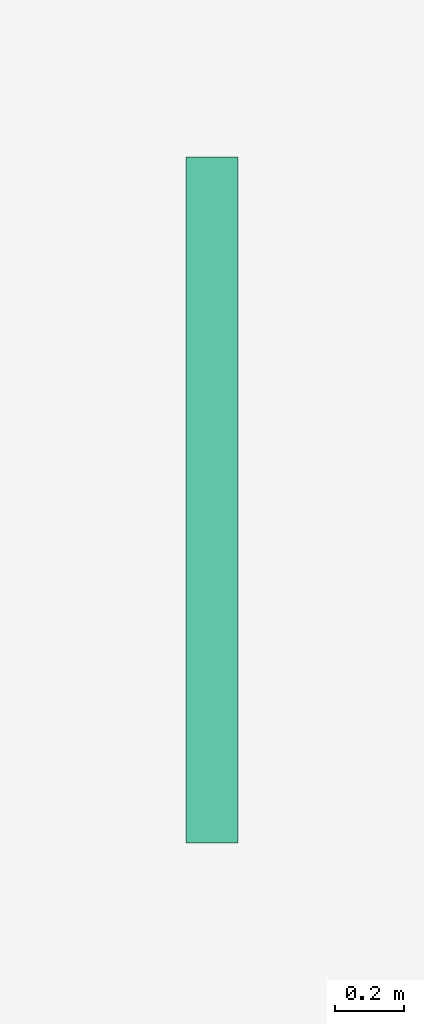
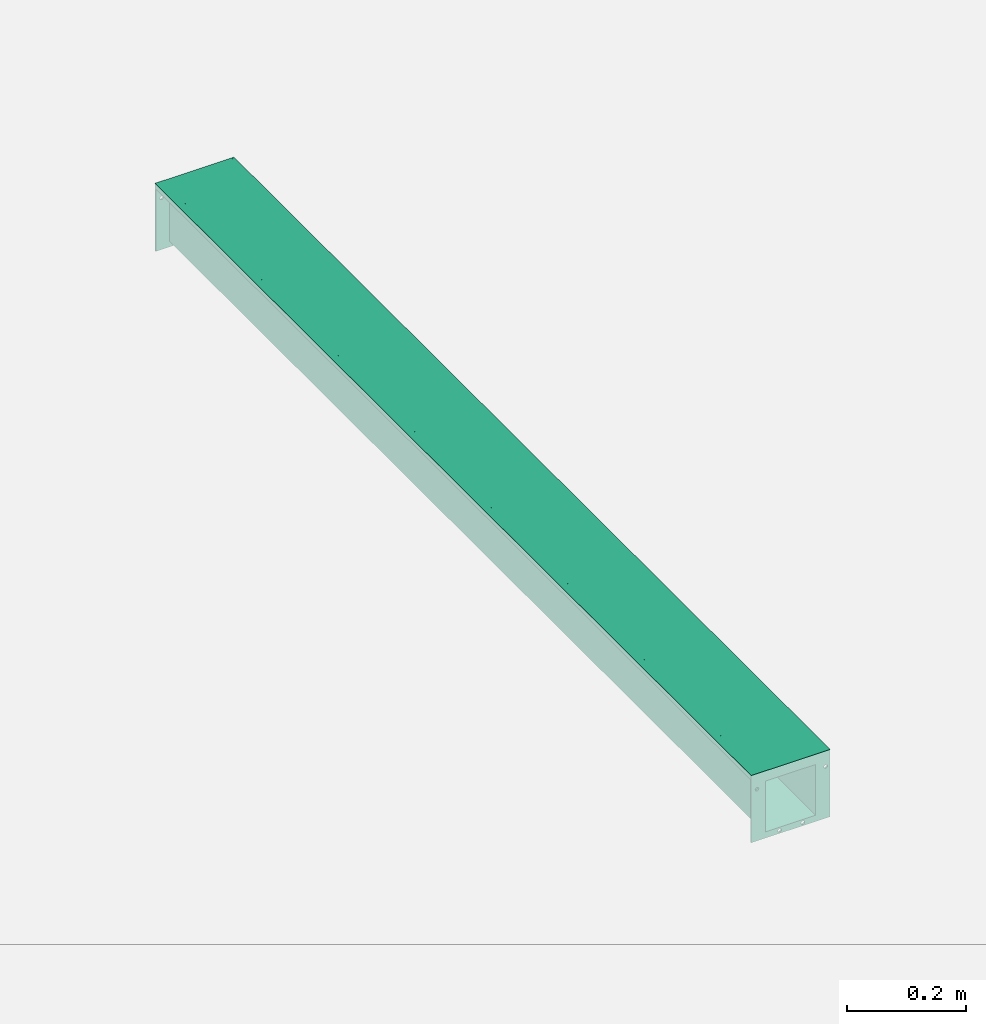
# One storey, part 2 of 2: 1 flow terminal.
"""IFC2X3 building model written with IfcOpenShell, lengths in millimetres."""

from ifc_helpers import new_model, entity, si_unit, converted_unit, direction, frame, frame_2d, origin, origin_2d_with_axis, place, context, subcontext, project, spatial, polyline, circle_curve, parameter, trimmed, segment, composite_curve, rectangle, outline, extrude, source, transform, mapped, material, material_list, element, save


model = new_model("IFC2X3")

# Units and contexts
model_context = context("Model", 3, precision=1e-06, world=origin(), true_north=direction((2.0, 6.12303176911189e-17, 1.0)))
context_of_model = context(None, 3, precision=1e-06, world=origin(), true_north=direction((2.0, 6.12303176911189e-17, 1.0)))
body_context = subcontext(model_context, "Body", "Model", "MODEL_VIEW")
ifc_project = project(units=[si_unit("LENGTHUNIT", "METRE", prefix="MILLI"), si_unit("AREAUNIT", "SQUARE_METRE", prefix="MILLI"), si_unit("VOLUMEUNIT", "CUBIC_METRE", prefix="MILLI"), converted_unit("PLANEANGLEUNIT", "DEGREE", entity("IfcRatioMeasure", 0.0174532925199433), si_unit("PLANEANGLEUNIT", "RADIAN"), dimensions=[0, 0, 0, 0, 0, 0, 0]), si_unit("TIMEUNIT", "SECOND")], contexts=[model_context, context_of_model])

# Site, building, storey
site_placement = place(None, origin())
site = spatial("IfcSite", under=ifc_project, at=site_placement, Name="Default", CompositionType="ELEMENT")
building_placement = place(site_placement, origin())
building = spatial("IfcBuilding", under=site, at=building_placement, CompositionType="ELEMENT")
storey_placement = place(building_placement, origin())
storey = spatial("IfcBuildingStorey", under=building, at=storey_placement, Name="Level 1", CompositionType="ELEMENT", Elevation=0.0)

# Flow terminal
ifc_material_1 = material(Name="Stainless Steel AISI 304")
ifc_material_2 = material(Name="Polystyrene, High Impact (F)")
ifc_material_list = material_list([ifc_material_1, ifc_material_2])
shared_shape = source(origin(), body_context, "Body", "SweptSolid", [
    extrude(rectangle(XDim=2000.0, YDim=124.999917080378, at=origin_2d_with_axis()), frame((4.14598109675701e-05, 1000.0, -21.0), z_axis=(0.0, 0.0, 1.0), x_axis=(0.0, 1.0, 0.0)), (0.0, 0.0, 1.0), 20.9999999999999),
    extrude(outline(polyline([(-76.5000276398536, -50.8000000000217), (-62.4999447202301, -50.8000000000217), (-62.4999447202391, -29.8000000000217), (-48.499944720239, -29.8000000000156), (-48.4999447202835, 74.1999999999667), (48.4999723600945, 74.2000000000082), (48.499972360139, -29.7999999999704), (62.4999723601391, -29.7999999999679), (62.4999723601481, -50.7999999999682), (76.4999723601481, -50.7999999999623), (76.4999723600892, 87.0), (-76.5000276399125, 87.0), (-76.5000276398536, -50.8000000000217)]), holes=[composite_curve([segment(trimmed(circle_curve(frame_2d((67.7349848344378, -18.9014274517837), x_axis=(1.0, 0.0)), 3.5), [parameter(0.0)], [parameter(180.0)], True, "PARAMETER"), False, "CONTINUOUS"), segment(trimmed(circle_curve(frame_2d((67.7349848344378, -18.9014274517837), x_axis=(1.0, 0.0)), 3.5), [parameter(180.0)], [parameter(360.0)], True, "PARAMETER"), False, "CONTINUOUS")], self_intersect=False), composite_curve([segment(trimmed(circle_curve(frame_2d((23.7349848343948, 80.9218749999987), x_axis=(1.0, 0.0)), 3.5), [parameter(0.0)], [parameter(180.0)], True, "PARAMETER"), False, "CONTINUOUS"), segment(trimmed(circle_curve(frame_2d((23.7349848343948, 80.9218749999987), x_axis=(1.0, 0.0)), 3.5), [parameter(180.0)], [parameter(360.0)], True, "PARAMETER"), False, "CONTINUOUS")], self_intersect=False), composite_curve([segment(trimmed(circle_curve(frame_2d((-21.2650151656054, 80.9218749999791), x_axis=(1.0, 0.0)), 3.5), [parameter(180.0)], [parameter(360.0)], True, "PARAMETER"), False, "CONTINUOUS"), segment(trimmed(circle_curve(frame_2d((-21.2650151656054, 80.9218749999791), x_axis=(1.0, 0.0)), 3.5), [parameter(360.0)], [parameter(180.0)], True, "PARAMETER"), False, "CONTINUOUS")], self_intersect=False), composite_curve([segment(trimmed(circle_curve(frame_2d((-65.2650151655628, -18.9014274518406), x_axis=(1.0, 0.0)), 3.5), [parameter(179.999999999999)], [parameter(360.0)], True, "PARAMETER"), False, "CONTINUOUS"), segment(trimmed(circle_curve(frame_2d((-65.2650151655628, -18.9014274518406), x_axis=(1.0, 0.0)), 3.5), [parameter(0.0)], [parameter(180.0)], True, "PARAMETER"), False, "CONTINUOUS")], self_intersect=False)]), frame((2.7639875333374e-05, 1997.0, -50.8000000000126), z_axis=(0.0, 1.0, 0.0), x_axis=(1.0, 0.0, 0.0)), (0.0, 0.0, 1.0), 2.99999999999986),
    extrude(outline(polyline([(-76.499958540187, -50.80000137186), (-62.4999585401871, -50.80000137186), (-62.4999585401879, -29.8000013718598), (-48.4999585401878, -29.8000013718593), (-48.499958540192, 74.1999986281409), (48.499958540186, 74.1999986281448), (48.4999585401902, -29.8000013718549), (62.4999585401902, -29.8000013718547), (62.4999585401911, -50.800001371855), (76.4999585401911, -50.8000013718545), (76.4999585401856, 87.0000068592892), (-76.4999585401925, 87.0000068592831), (-76.499958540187, -50.80000137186)]), holes=[composite_curve([segment(trimmed(circle_curve(frame_2d((67.7349710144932, -18.9014288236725), x_axis=(1.0, 0.0)), 3.5), [parameter(0.0)], [parameter(180.0)], True, "PARAMETER"), False, "CONTINUOUS"), segment(trimmed(circle_curve(frame_2d((67.7349710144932, -18.9014288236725), x_axis=(1.0, 0.0)), 3.5), [parameter(180.0)], [parameter(360.0)], True, "PARAMETER"), False, "CONTINUOUS")], self_intersect=False), composite_curve([segment(trimmed(circle_curve(frame_2d((23.7349710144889, 80.9218818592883), x_axis=(1.0, 0.0)), 3.5), [parameter(0.0)], [parameter(180.0)], True, "PARAMETER"), False, "CONTINUOUS"), segment(trimmed(circle_curve(frame_2d((23.7349710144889, 80.9218818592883), x_axis=(1.0, 0.0)), 3.5), [parameter(180.0)], [parameter(359.999999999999)], True, "PARAMETER"), False, "CONTINUOUS")], self_intersect=False), composite_curve([segment(trimmed(circle_curve(frame_2d((-21.2650289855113, 80.9218818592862), x_axis=(1.0, 0.0)), 3.5), [parameter(180.0)], [parameter(360.0)], True, "PARAMETER"), False, "CONTINUOUS"), segment(trimmed(circle_curve(frame_2d((-21.2650289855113, 80.9218818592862), x_axis=(1.0, 0.0)), 3.5), [parameter(360.0)], [parameter(180.0)], True, "PARAMETER"), False, "CONTINUOUS")], self_intersect=False), composite_curve([segment(trimmed(circle_curve(frame_2d((-65.2650289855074, -18.9014288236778), x_axis=(1.0, 0.0)), 3.5), [parameter(180.0)], [parameter(0.0)], True, "PARAMETER"), False, "CONTINUOUS"), segment(trimmed(circle_curve(frame_2d((-65.2650289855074, -18.9014288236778), x_axis=(1.0, 0.0)), 3.5), [parameter(0.0)], [parameter(180.0)], True, "PARAMETER"), False, "CONTINUOUS")], self_intersect=False)]), frame((4.14598109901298e-05, 0.0, -50.8000013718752), z_axis=(0.0, 1.0, 0.0), x_axis=(1.0, 0.0, 0.0)), (0.0, 0.0, 1.0), 3.0),
    extrude(outline(polyline([(-30.1243423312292, -62.4999585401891), (-30.1243423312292, -76.499958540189), (-20.1243423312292, -76.499958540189), (-20.1243423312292, -74.999958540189), (-28.6243423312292, -74.999958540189), (-28.6243423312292, -63.9999585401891), (-7.62434233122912, -63.9999585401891), (-7.6243423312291, -49.999958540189), (96.3717116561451, -49.999958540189), (96.3717116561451, 49.999958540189), (-7.62434233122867, 49.999958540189), (-7.62434233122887, 63.999958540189), (-28.624342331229, 63.9999585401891), (-28.6243423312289, 74.9999585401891), (-20.1243423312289, 74.9999585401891), (-20.1243423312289, 76.4999585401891), (-30.1243423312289, 76.4999585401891), (-30.124342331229, 62.4999585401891), (-9.12434233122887, 62.499958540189), (-9.12434233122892, 48.499958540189), (94.8717116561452, 48.499958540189), (94.8717116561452, -48.499958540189), (-9.12434233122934, -48.499958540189), (-9.12434233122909, -62.4999585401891), (-30.1243423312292, -62.4999585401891)])), frame((4.14598110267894e-05, 3.0, -30.1282883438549), z_axis=(0.0, -1.0, 0.0), x_axis=(0.0, 0.0, -1.0)), (0.0, 0.0, -1.0), 1994.0),
    extrude(rectangle(XDim=1997.0, YDim=11.0, at=frame_2d((-1.13686837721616e-13, 0.0), x_axis=(1.0, 0.0))), frame((69.5000000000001, 1001.5, -10.0), z_axis=(0.0, 0.0, 1.0), x_axis=(0.0, 1.0, 0.0)), (0.0, 0.0, 1.0), 8.50000000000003),
    extrude(rectangle(XDim=1997.0, YDim=10.9999999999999, at=frame_2d((-1.13686837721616e-13, 0.0), x_axis=(1.0, 0.0))), frame((-69.499917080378, 1001.5, -10.0), z_axis=(0.0, 0.0, 1.0), x_axis=(0.0, 1.0, 0.0)), (0.0, 0.0, 1.0), 8.50000000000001),
])
flow_terminal_placement = place(storey_placement, frame((-82.2883701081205, -967.950501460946, 0.0)))
element("IfcFlowTerminal", 1, at=flow_terminal_placement, inside=storey, material=ifc_material_list, Name="ACO BD Modular 125 Level Invert Straight Channels:105140 - Straight Channel - 2000mm LG - Invert Depth 125mm:105140 - Straight Channel - 2000mm LG - Invert Depth 125mm", ObjectType="105140 - Straight Channel - 2000mm LG - Invert Depth 125mm", context=body_context, shape_type="MappedRepresentation", body=[
    mapped(shared_shape, transform((0.0, 0.0, 0.0), scale=1.0)),
])

save(model, "model.ifc")
